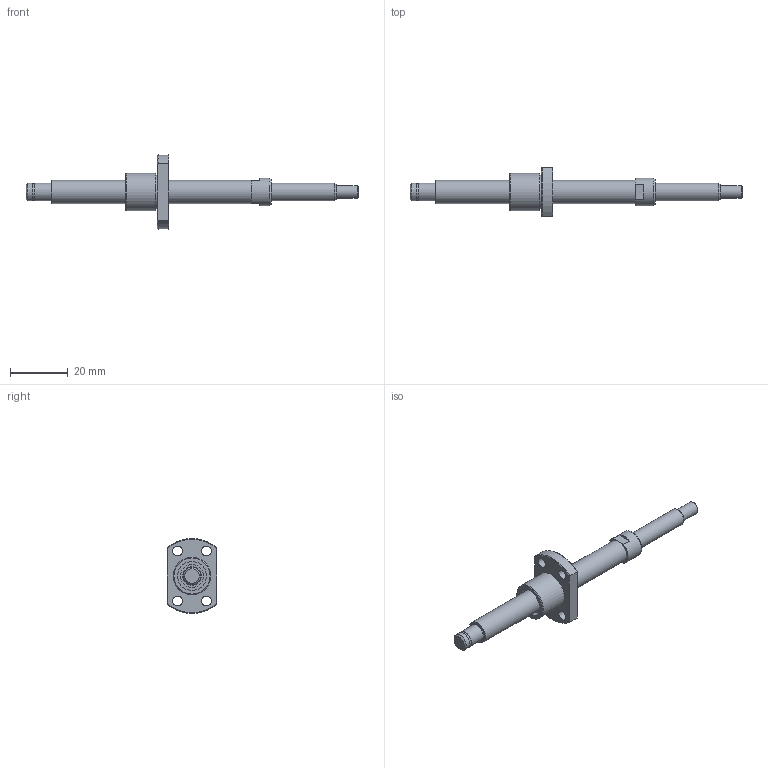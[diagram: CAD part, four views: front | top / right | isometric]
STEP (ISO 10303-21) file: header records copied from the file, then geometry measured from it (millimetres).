
FILE_DESCRIPTION(/* description */ ('STEP AP203'),/* implementation_level */ '2;1');
FILE_NAME(/* name */ 'BNK0801-3G0+115LC5Y(40.5)',/* time_stamp */ '2024-06-28T09:44:33+02:00',/* author */ ('License CC BY-ND 4.0'),/* organization */ ('CADENAS'),/* preprocessor_version */ 'ST-DEVELOPER v19.3',/* originating_system */ 'PARTsolutions',/* authorisation */ ' ');
FILE_SCHEMA (('CONFIG_CONTROL_DESIGN'));
Length unit declared in the file: millimetre
Products named in the file (3): BNK0801-3G0+115LC5Y(40.5); BNK 0801-3G0+115LC5Y Shaft; BNK 0801-3G0+115LC5Y Nut
Assembly tree (2 placements, depth 2):
  BNK0801-3G0+115LC5Y(40.5)
    BNK 0801-3G0+115LC5Y Shaft
    BNK 0801-3G0+115LC5Y Nut
Bounding box: 115 x 17 x 25.92 mm (x, y, z)
Volume: 7016.4 mm3; surface area: 4755 mm2
Topology: 2 solids, 2 shells, 50 faces, 101 edges, 64 vertices
Faces by surface type: plane 21, cylinder 18, cone 9, torus 2
Full cylindrical faces by diameter (mm): 3.4 x4, 4.5 x1, 5.7 x1, 6 x3, 8 x2, 9.5 x1, 10 x2, 12 x1, 13 x1
Entity records: 1295 total; most frequent: DIRECTION 226, CARTESIAN_POINT 217, ORIENTED_EDGE 154, AXIS2_PLACEMENT_3D 104, EDGE_LOOP 92, FACE_BOUND 92, EDGE_CURVE 77, VERTEX_POINT 63
